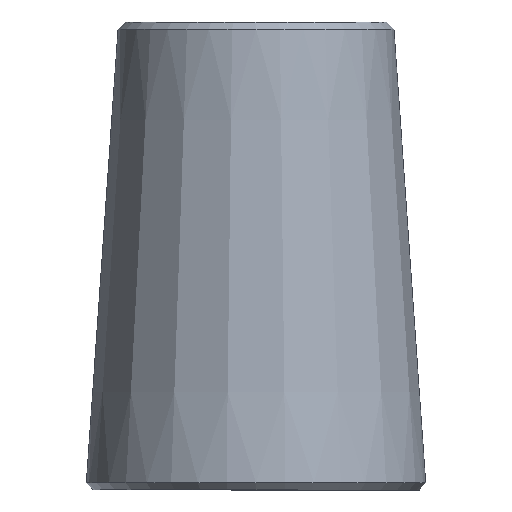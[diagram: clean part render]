
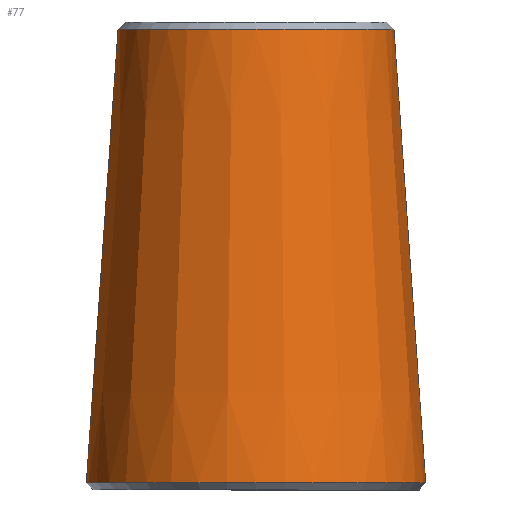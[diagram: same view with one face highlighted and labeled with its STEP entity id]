
A CAD part, left-side view. The second image highlights one B-rep face of the part: STEP entity #77.
In plain terms, the highlighted conical face has half-angle 4 degrees and reference radius 10.846 mm.
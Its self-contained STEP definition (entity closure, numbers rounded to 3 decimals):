
#20=FACE_BOUND('',#34,.T.);
#25=FACE_OUTER_BOUND('',#33,.T.);
#33=EDGE_LOOP('',(#63));
#34=EDGE_LOOP('',(#64));
#44=CIRCLE('',#87,11.965);
#45=CIRCLE('',#89,9.727);
#50=VERTEX_POINT('',#130);
#51=VERTEX_POINT('',#133);
#56=EDGE_CURVE('',#50,#50,#44,.T.);
#57=EDGE_CURVE('',#51,#51,#45,.T.);
#63=ORIENTED_EDGE('',*,*,#57,.F.);
#64=ORIENTED_EDGE('',*,*,#56,.F.);
#74=CONICAL_SURFACE('',#88,10.846,4.);
#77=ADVANCED_FACE('',(#25,#20),#74,.T.);
#87=AXIS2_PLACEMENT_3D('',#131,#104,#105);
#88=AXIS2_PLACEMENT_3D('',#132,#106,#107);
#89=AXIS2_PLACEMENT_3D('',#134,#108,#109);
#104=DIRECTION('center_axis',(0.,0.,
-1.));
#105=DIRECTION('ref_axis',(0.,1.,0.));
#106=DIRECTION('center_axis',(0.,0.,-1.));
#107=DIRECTION('ref_axis',(0.,-1.,0.));
#108=DIRECTION('center_axis',(0.,0.,1.));
#109=DIRECTION('ref_axis',(0.,1.,0.));
#130=CARTESIAN_POINT('',(0.,-11.965,0.499));
#131=CARTESIAN_POINT('Origin',(0.,0.,
0.499));
#132=CARTESIAN_POINT('Origin',(0.,0.,16.5));
#133=CARTESIAN_POINT('',(0.,-9.727,32.501));
#134=CARTESIAN_POINT('Origin',(0.,0.,
32.501));
